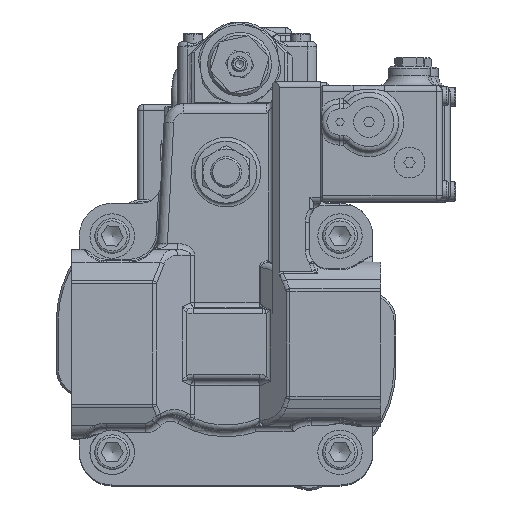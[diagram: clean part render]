
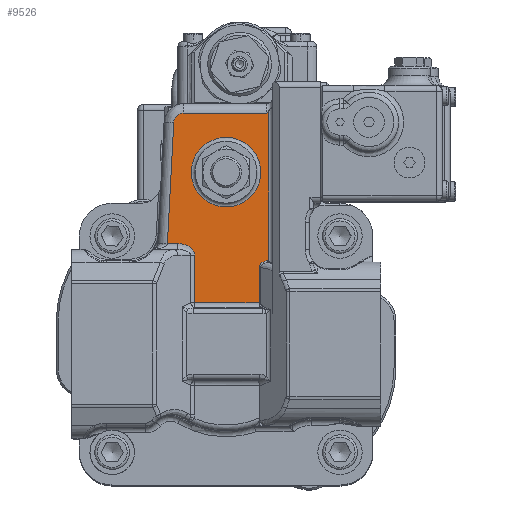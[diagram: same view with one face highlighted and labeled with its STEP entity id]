
A CAD part, top view. The second image highlights one B-rep face of the part: STEP entity #9526.
In plain terms, the highlighted planar face has unit normal (0, 0, 1).
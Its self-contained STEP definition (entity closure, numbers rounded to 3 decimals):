
#9184=CARTESIAN_POINT('',(22.,120.821,473.7));
#9185=VERTEX_POINT('',#9184);
#9201=CARTESIAN_POINT('',(22.,42.917,473.7));
#9202=VERTEX_POINT('',#9201);
#9203=CARTESIAN_POINT('',(22.,120.821,473.7));
#9204=DIRECTION('',(0.0,-1.0,0.0));
#9205=VECTOR('',#9204,77.904);
#9206=LINE('',#9203,#9205);
#9207=EDGE_CURVE('',#9185,#9202,#9206,.T.);
#9402=CARTESIAN_POINT('',(-2.261,42.265,473.7));
#9403=DIRECTION('',(0.0,0.0,1.0));
#9404=DIRECTION('',(1.0,0.0,0.0));
#9405=AXIS2_PLACEMENT_3D('',#9402,#9403,#9404);
#9406=PLANE('',#9405);
#9407=ORIENTED_EDGE('',*,*,#9207,.F.);
#9408=CARTESIAN_POINT('',(21.,119.5,473.7));
#9409=VERTEX_POINT('',#9408);
#9410=CARTESIAN_POINT('',(21.,119.5,473.7));
#9411=CARTESIAN_POINT('',(21.32,119.914,473.7));
#9412=CARTESIAN_POINT('',(21.666,120.358,473.7));
#9413=CARTESIAN_POINT('',(22.,120.821,473.7));
#9414=B_SPLINE_CURVE_WITH_KNOTS('',3,(#9410,#9411,#9412,#9413),.UNSPECIFIED.,.F.,.U.,(4,4),(0.0,0.157),.UNSPECIFIED.);
#9415=EDGE_CURVE('',#9409,#9185,#9414,.T.);
#9416=ORIENTED_EDGE('',*,*,#9415,.F.);
#9417=CARTESIAN_POINT('',(-22.115,119.5,473.7));
#9418=VERTEX_POINT('',#9417);
#9419=CARTESIAN_POINT('',(-22.115,119.5,473.7));
#9420=DIRECTION('',(1.0,0.0,0.0));
#9421=VECTOR('',#9420,43.115);
#9422=LINE('',#9419,#9421);
#9423=EDGE_CURVE('',#9418,#9409,#9422,.T.);
#9424=ORIENTED_EDGE('',*,*,#9423,.F.);
#9425=CARTESIAN_POINT('',(-27.108,114.762,473.7));
#9426=VERTEX_POINT('',#9425);
#9427=CARTESIAN_POINT('',(-22.115,114.5,473.7));
#9428=DIRECTION('',(0.,0.,-1.0));
#9429=DIRECTION('',(-0.688,0.725,0.));
#9430=AXIS2_PLACEMENT_3D('',#9427,#9428,#9429);
#9431=CIRCLE('',#9430,5.0);
#9432=EDGE_CURVE('',#9426,#9418,#9431,.T.);
#9433=ORIENTED_EDGE('',*,*,#9432,.F.);
#9434=CARTESIAN_POINT('',(-30.398,52.,473.7));
#9435=VERTEX_POINT('',#9434);
#9436=CARTESIAN_POINT('',(-30.398,52.,473.7));
#9437=DIRECTION('',(0.052,0.999,0.0));
#9438=VECTOR('',#9437,62.848);
#9439=LINE('',#9436,#9438);
#9440=EDGE_CURVE('',#9435,#9426,#9439,.T.);
#9441=ORIENTED_EDGE('',*,*,#9440,.F.);
#9442=CARTESIAN_POINT('',(-25.116,52.,473.7));
#9443=VERTEX_POINT('',#9442);
#9444=CARTESIAN_POINT('',(-25.116,52.,473.7));
#9445=DIRECTION('',(-1.0,0.0,0.0));
#9446=VECTOR('',#9445,5.282);
#9447=LINE('',#9444,#9446);
#9448=EDGE_CURVE('',#9443,#9435,#9447,.T.);
#9449=ORIENTED_EDGE('',*,*,#9448,.F.);
#9450=CARTESIAN_POINT('',(-16.318,46.,473.7));
#9451=VERTEX_POINT('',#9450);
#9452=CARTESIAN_POINT('',(-25.116,46.,473.7));
#9453=DIRECTION('',(0.0,0.0,1.0));
#9454=DIRECTION('',(1.0,0.0,0.0));
#9455=AXIS2_PLACEMENT_3D('',#9452,#9453,#9454);
#9456=ELLIPSE('',#9455,8.798,6.);
#9457=EDGE_CURVE('',#9451,#9443,#9456,.T.);
#9458=ORIENTED_EDGE('',*,*,#9457,.F.);
#9459=CARTESIAN_POINT('',(-16.318,21.354,473.7));
#9460=VERTEX_POINT('',#9459);
#9461=CARTESIAN_POINT('',(-16.318,21.354,473.7));
#9462=DIRECTION('',(0.0,1.0,0.0));
#9463=VECTOR('',#9462,24.646);
#9464=LINE('',#9461,#9463);
#9465=EDGE_CURVE('',#9460,#9451,#9464,.T.);
#9466=ORIENTED_EDGE('',*,*,#9465,.F.);
#9467=CARTESIAN_POINT('',(17.116,21.354,473.7));
#9468=VERTEX_POINT('',#9467);
#9469=CARTESIAN_POINT('',(17.116,21.354,473.7));
#9470=DIRECTION('',(-1.0,0.0,0.0));
#9471=VECTOR('',#9470,33.434);
#9472=LINE('',#9469,#9471);
#9473=EDGE_CURVE('',#9468,#9460,#9472,.T.);
#9474=ORIENTED_EDGE('',*,*,#9473,.F.);
#9475=CARTESIAN_POINT('',(17.116,39.499,473.7));
#9476=VERTEX_POINT('',#9475);
#9477=CARTESIAN_POINT('',(17.116,39.499,473.7));
#9478=DIRECTION('',(0.0,-1.0,0.0));
#9479=VECTOR('',#9478,18.145);
#9480=LINE('',#9477,#9479);
#9481=EDGE_CURVE('',#9476,#9468,#9480,.T.);
#9482=ORIENTED_EDGE('',*,*,#9481,.F.);
#9483=CARTESIAN_POINT('',(21.,43.082,473.7));
#9484=VERTEX_POINT('',#9483);
#9485=CARTESIAN_POINT('',(21.,43.082,473.7));
#9486=CARTESIAN_POINT('',(20.285,42.959,473.7));
#9487=CARTESIAN_POINT('',(19.024,42.526,473.7));
#9488=CARTESIAN_POINT('',(17.539,41.253,473.7));
#9489=CARTESIAN_POINT('',(17.116,40.089,473.7));
#9490=CARTESIAN_POINT('',(17.116,39.499,473.7));
#9491=B_SPLINE_CURVE_WITH_KNOTS('',3,(#9485,#9486,#9487,#9488,#9489,#9490),.UNSPECIFIED.,.F.,.U.,(4,1,1,4),(-0.57,-0.354,-0.177,0.0),.UNSPECIFIED.);
#9492=EDGE_CURVE('',#9484,#9476,#9491,.T.);
#9493=ORIENTED_EDGE('',*,*,#9492,.F.);
#9494=CARTESIAN_POINT('',(21.481,43.146,473.7));
#9495=VERTEX_POINT('',#9494);
#9496=CARTESIAN_POINT('',(21.481,43.146,473.7));
#9497=CARTESIAN_POINT('',(21.32,43.13,473.7));
#9498=CARTESIAN_POINT('',(21.16,43.109,473.7));
#9499=CARTESIAN_POINT('',(21.,43.082,473.7));
#9500=B_SPLINE_CURVE_WITH_KNOTS('',3,(#9496,#9497,#9498,#9499),.UNSPECIFIED.,.F.,.U.,(4,4),(-0.619,-0.57),.UNSPECIFIED.);
#9501=EDGE_CURVE('',#9495,#9484,#9500,.T.);
#9502=ORIENTED_EDGE('',*,*,#9501,.F.);
#9503=CARTESIAN_POINT('',(22.,42.917,473.7));
#9504=CARTESIAN_POINT('',(21.919,42.955,473.7));
#9505=CARTESIAN_POINT('',(21.837,42.991,473.7));
#9506=CARTESIAN_POINT('',(21.755,43.028,473.7));
#9507=CARTESIAN_POINT('',(21.664,43.068,473.7));
#9508=CARTESIAN_POINT('',(21.573,43.107,473.7));
#9509=CARTESIAN_POINT('',(21.481,43.146,473.7));
#9510=B_SPLINE_CURVE_WITH_KNOTS('',3,(#9503,#9504,#9505,#9506,#9507,#9508,#9509),.UNSPECIFIED.,.F.,.U.,(4,3,4),(-0.056,-0.029,0.001),.UNSPECIFIED.);
#9511=EDGE_CURVE('',#9202,#9495,#9510,.T.);
#9512=ORIENTED_EDGE('',*,*,#9511,.F.);
#9513=EDGE_LOOP('',(#9407,#9416,#9424,#9433,#9441,#9449,#9458,#9466,#9474,#9482,#9493,#9502,#9512));
#9514=FACE_OUTER_BOUND('',#9513,.T.);
#9515=CARTESIAN_POINT('',(18.,89.,473.7));
#9516=VERTEX_POINT('',#9515);
#9517=CARTESIAN_POINT('',(0.,89.,473.7));
#9518=DIRECTION('',(0.0,0.0,1.0));
#9519=DIRECTION('',(-1.0,0.0,0.0));
#9520=AXIS2_PLACEMENT_3D('',#9517,#9518,#9519);
#9521=CIRCLE('',#9520,18.0);
#9522=EDGE_CURVE('',#9516,#9516,#9521,.T.);
#9523=ORIENTED_EDGE('',*,*,#9522,.F.);
#9524=EDGE_LOOP('',(#9523));
#9525=FACE_BOUND('',#9524,.T.);
#9526=ADVANCED_FACE('',(#9514,#9525),#9406,.T.);
